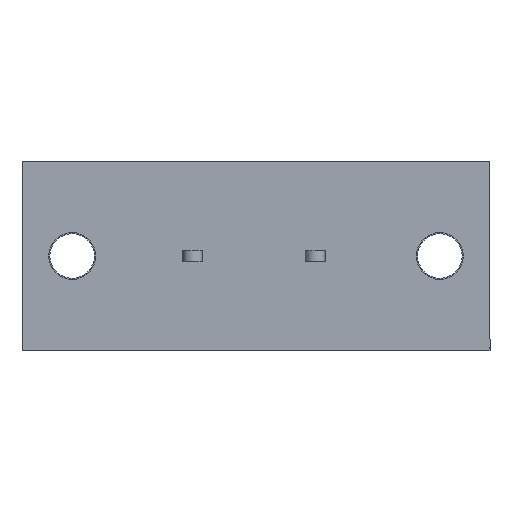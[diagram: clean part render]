
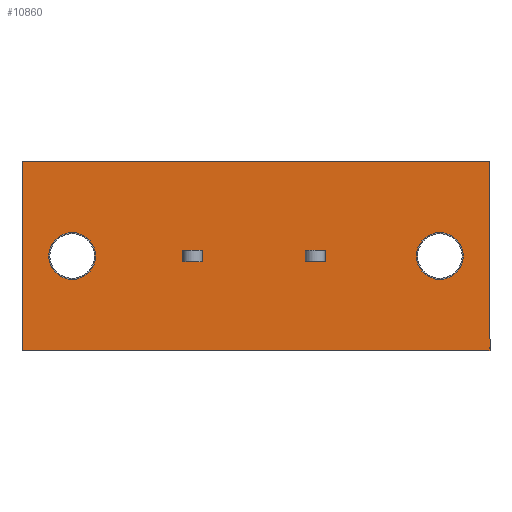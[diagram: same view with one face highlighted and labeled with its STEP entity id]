
A CAD part, front view. The second image highlights one B-rep face of the part: STEP entity #10860.
In plain terms, the highlighted planar face has unit normal (0, -1, 0).
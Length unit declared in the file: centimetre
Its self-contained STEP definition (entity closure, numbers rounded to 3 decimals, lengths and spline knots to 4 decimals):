
#554=VECTOR('',#11436,1.);
#558=VECTOR('',#11441,1.);
#569=VECTOR('',#11474,1.);
#571=VECTOR('',#11477,1.);
#1118=VECTOR('',#12391,1.);
#1210=VECTOR('',#12585,1.);
#1213=VECTOR('',#12591,1.);
#1224=VECTOR('',#12619,1.);
#1227=VECTOR('',#12627,1.);
#1664=VECTOR('',#13240,1.);
#1707=VECTOR('',#13340,1.);
#1708=VECTOR('',#13341,1.);
#1761=LINE('',#13577,#554);
#1765=LINE('',#13586,#558);
#1776=LINE('',#13621,#569);
#1778=LINE('',#13625,#571);
#2325=LINE('',#15604,#1118);
#2417=LINE('',#15839,#1210);
#2420=LINE('',#15848,#1213);
#2431=LINE('',#15876,#1224);
#2434=LINE('',#15884,#1227);
#2871=LINE('',#17474,#1664);
#2914=LINE('',#17598,#1707);
#2915=LINE('',#17599,#1708);
#2988=VERTEX_POINT('',#13578);
#2989=VERTEX_POINT('',#13579);
#2992=VERTEX_POINT('',#13587);
#3003=VERTEX_POINT('',#13622);
#3495=VERTEX_POINT('',#15605);
#3496=VERTEX_POINT('',#15606);
#3507=VERTEX_POINT('',#15630);
#3576=VERTEX_POINT('',#15840);
#3577=VERTEX_POINT('',#15841);
#3580=VERTEX_POINT('',#15849);
#3586=VERTEX_POINT('',#15877);
#3953=VERTEX_POINT('',#17475);
#3954=VERTEX_POINT('',#17476);
#3965=VERTEX_POINT('',#17500);
#4094=CIRCLE('',#17992,0.21);
#4134=CIRCLE('',#18234,0.21);
#4228=EDGE_CURVE('',#2988,#2989,#1761,.T.);
#4232=EDGE_CURVE('',#2992,#2988,#1765,.T.);
#4249=EDGE_CURVE('',#3003,#2992,#1776,.T.);
#4251=EDGE_CURVE('',#2989,#3003,#1778,.T.);
#4979=EDGE_CURVE('',#3495,#3496,#2325,.T.);
#4991=EDGE_CURVE('',#3507,#3507,#4094,.T.);
#5098=EDGE_CURVE('',#3576,#3577,#2417,.T.);
#5102=EDGE_CURVE('',#3577,#3580,#2420,.T.);
#5117=EDGE_CURVE('',#3580,#3586,#2431,.T.);
#5121=EDGE_CURVE('',#3586,#3576,#2434,.T.);
#5671=EDGE_CURVE('',#3953,#3954,#2871,.T.);
#5683=EDGE_CURVE('',#3965,#3965,#4134,.T.);
#5734=EDGE_CURVE('',#3496,#3953,#2914,.T.);
#5735=EDGE_CURVE('',#3954,#3495,#2915,.T.);
#8852=ORIENTED_EDGE('',*,*,#4232,.T.);
#8853=ORIENTED_EDGE('',*,*,#4228,.T.);
#8854=ORIENTED_EDGE('',*,*,#4251,.T.);
#8855=ORIENTED_EDGE('',*,*,#4249,.T.);
#8856=ORIENTED_EDGE('',*,*,#4991,.T.);
#8857=ORIENTED_EDGE('',*,*,#5117,.F.);
#8858=ORIENTED_EDGE('',*,*,#5102,.F.);
#8859=ORIENTED_EDGE('',*,*,#5098,.F.);
#8860=ORIENTED_EDGE('',*,*,#5121,.F.);
#8861=ORIENTED_EDGE('',*,*,#5683,.T.);
#8862=ORIENTED_EDGE('',*,*,#5734,.T.);
#8863=ORIENTED_EDGE('',*,*,#5671,.T.);
#8864=ORIENTED_EDGE('',*,*,#5735,.T.);
#8865=ORIENTED_EDGE('',*,*,#4979,.T.);
#9598=EDGE_LOOP('',(#8852,#8853,#8854,#8855));
#9599=EDGE_LOOP('',(#8856));
#9600=EDGE_LOOP('',(#8857,#8858,#8859,#8860));
#9601=EDGE_LOOP('',(#8861));
#9602=EDGE_LOOP('',(#8862,#8863,#8864,#8865));
#10262=FACE_BOUND('',#9598,.T.);
#10263=FACE_BOUND('',#9599,.T.);
#10264=FACE_BOUND('',#9600,.T.);
#10265=FACE_BOUND('',#9601,.T.);
#10266=FACE_BOUND('',#9602,.T.);
#10860=ADVANCED_FACE('',(#10262,#10263,#10264,#10265,#10266),#11272,.T.);
#11272=PLANE('',#18260);
#11436=DIRECTION('',(-1.,0.,0.));
#11441=DIRECTION('',(0.,0.,-1.));
#11474=DIRECTION('',(1.,0.,0.));
#11477=DIRECTION('',(0.,0.,1.));
#12391=DIRECTION('',(1.,0.,0.));
#12409=DIRECTION('',(0.,1.,0.));
#12410=DIRECTION('',(0.,0.,-0.21));
#12585=DIRECTION('',(0.,0.,-1.));
#12591=DIRECTION('',(1.,0.,0.));
#12619=DIRECTION('',(0.,0.,1.));
#12627=DIRECTION('',(-1.,0.,0.));
#13240=DIRECTION('',(-1.,0.,0.));
#13258=DIRECTION('',(0.,1.,0.));
#13259=DIRECTION('',(0.,0.,0.21));
#13339=DIRECTION('',(0.,-1.,0.));
#13340=DIRECTION('',(0.,0.,1.));
#13341=DIRECTION('',(0.,0.,-1.));
#13577=CARTESIAN_POINT('',(0.175,-0.95,1.01));
#13578=CARTESIAN_POINT('',(0.05,-0.95,1.01));
#13579=CARTESIAN_POINT('',(-0.05,-0.95,1.01));
#13586=CARTESIAN_POINT('',(0.05,-0.95,1.335));
#13587=CARTESIAN_POINT('',(0.05,-0.95,1.19));
#13621=CARTESIAN_POINT('',(0.175,-0.95,1.19));
#13622=CARTESIAN_POINT('',(-0.05,-0.95,1.19));
#13625=CARTESIAN_POINT('',(-0.05,-0.95,1.335));
#15604=CARTESIAN_POINT('',(0.85,-0.95,-1.53));
#15605=CARTESIAN_POINT('',(-0.85,-0.95,-1.53));
#15606=CARTESIAN_POINT('',(0.85,-0.95,-1.53));
#15629=CARTESIAN_POINT('',(0.,-0.95,-1.08));
#15630=CARTESIAN_POINT('',(0.,-0.95,-0.87));
#15839=CARTESIAN_POINT('',(-0.05,-0.95,-0.215));
#15840=CARTESIAN_POINT('',(-0.05,-0.95,0.09));
#15841=CARTESIAN_POINT('',(-0.05,-0.95,-0.09));
#15848=CARTESIAN_POINT('',(0.175,-0.95,-0.09));
#15849=CARTESIAN_POINT('',(0.05,-0.95,-0.09));
#15876=CARTESIAN_POINT('',(0.05,-0.95,-0.215));
#15877=CARTESIAN_POINT('',(0.05,-0.95,0.09));
#15884=CARTESIAN_POINT('',(0.175,-0.95,0.09));
#17474=CARTESIAN_POINT('',(-0.85,-0.95,2.67));
#17475=CARTESIAN_POINT('',(0.85,-0.95,2.67));
#17476=CARTESIAN_POINT('',(-0.85,-0.95,2.67));
#17499=CARTESIAN_POINT('',(0.,-0.95,2.22));
#17500=CARTESIAN_POINT('',(0.,-0.95,2.01));
#17597=CARTESIAN_POINT('',(0.,-0.95,1.57));
#17598=CARTESIAN_POINT('',(0.85,-0.95,1.57));
#17599=CARTESIAN_POINT('',(-0.85,-0.95,-0.63));
#17992=AXIS2_PLACEMENT_3D('',#15629,#12409,#12410);
#18234=AXIS2_PLACEMENT_3D('',#17499,#13258,#13259);
#18260=AXIS2_PLACEMENT_3D('',#17597,#13339,$);
